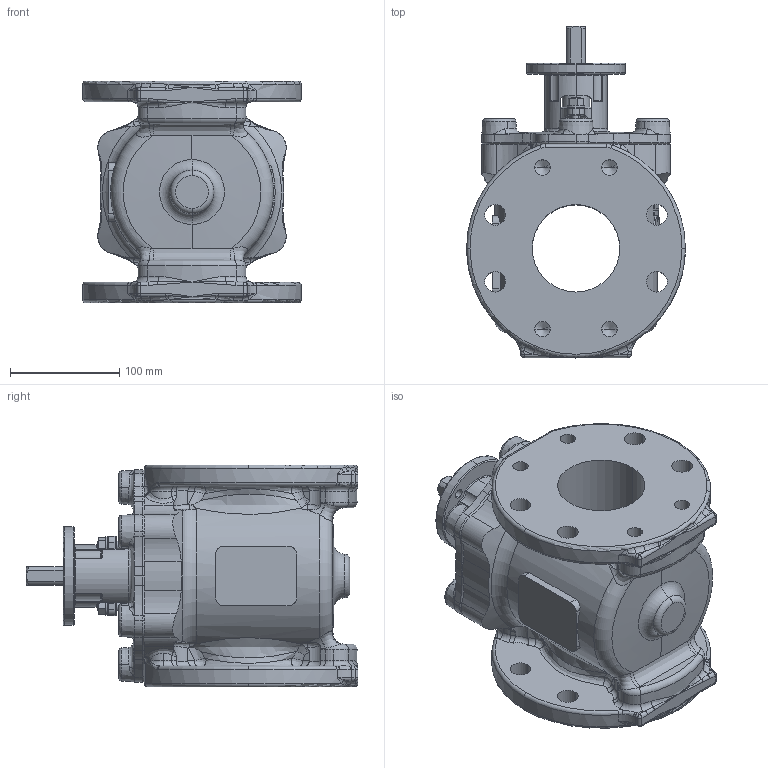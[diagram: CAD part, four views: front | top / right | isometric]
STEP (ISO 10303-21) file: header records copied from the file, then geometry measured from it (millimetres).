
FILE_DESCRIPTION (( 'STEP AP203' ), '1' );
FILE_NAME ('O_764_01_DN080_1XXXXXX000_REV02.step', '2021-02-03T08:52:11', ( '' ), ( '' ), 'SwSTEP 2.0', 'SolidWorks 2019', '' );
FILE_SCHEMA (( 'CONFIG_CONTROL_DESIGN' ));
Length unit declared in the file: millimetre
Products named in the file (1): O_764_01_DN080_1XXXXXX000_REV02
Bounding box: 200 x 303.5 x 203 mm (x, y, z)
Volume: 4240719 mm3; surface area: 328774.1 mm2
Topology: 1 solids, 1 shells, 905 faces, 2290 edges, 1342 vertices
Faces by surface type: cylinder 251, bspline 216, torus 204, plane 151, cone 71, sphere 12
Entity records: 39557 total; most frequent: CARTESIAN_POINT 19575, ORIENTED_EDGE 4444, DIRECTION 4002, EDGE_CURVE 2222, AXIS2_PLACEMENT_3D 1773, VERTEX_POINT 1342, CIRCLE 1083, EDGE_LOOP 962
